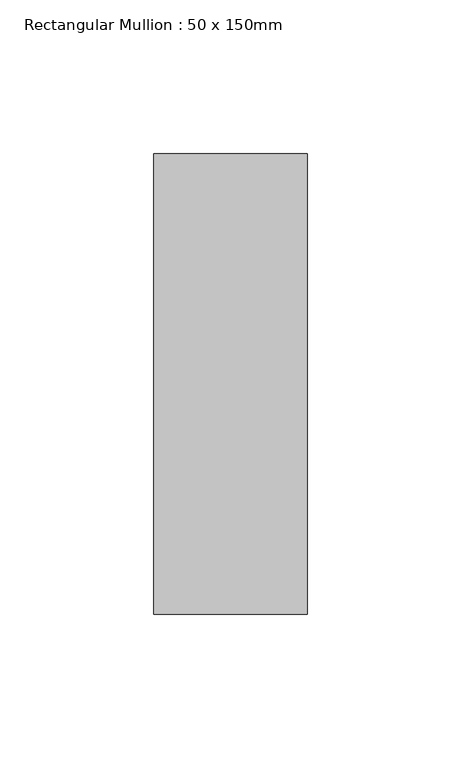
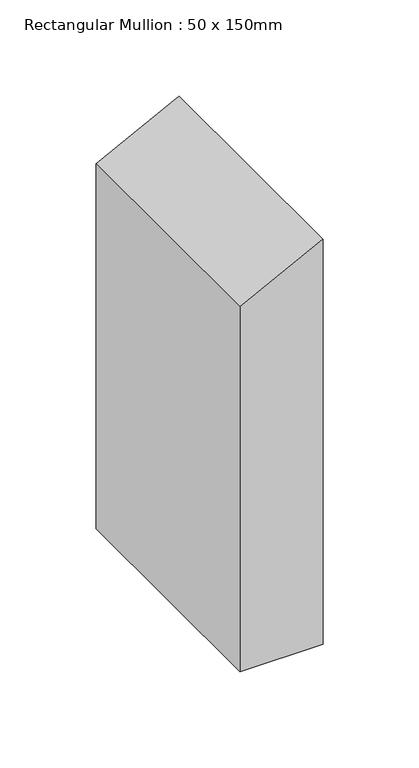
"""IFC4 building model written with IfcOpenShell, lengths in millimetres: member geometry, Rectangular Mullion : 50 x 150mm."""

from ifc_helpers import new_model, si_unit, frame, origin, place, context, project, spatial, polyline, outline, extrude, source, transform, mapped, element, save


def rectangular_mullion_50_x_150mm_f816ec39(model_context):
    return source(origin(), model_context, "Body", "SweptSolid", [
        extrude(outline(polyline([(0.0, 0.0), (-25.4762725, -50.0), (-257.6864381, -50.0), (-257.6864381, 0.0), (0.0, 0.0)])), frame((0.0, -75.0, 0.0), z_axis=(0.0, 1.0, 0.0), x_axis=(0.0, 0.0, 1.0)), (0.0, 0.0, 1.0), 150.0),
    ])


if __name__ == "__main__":
    model = new_model("IFC4")
    model_context = context("Model", 3, world=origin())
    ifc_project = project(units=[si_unit("LENGTHUNIT", "METRE", prefix="MILLI")], contexts=[model_context])
    site = spatial("IfcSite", under=ifc_project)
    building = spatial("IfcBuilding", under=site)
    placement = place(None, origin())
    rectangular_mullion_50_x_150mm_shape = rectangular_mullion_50_x_150mm_f816ec39(model_context)
    element("IfcMember", 1, ObjectType="Rectangular Mullion : 50 x 150mm", at=placement, inside=building, context=model_context, shape_type="MappedRepresentation", body=[
        mapped(rectangular_mullion_50_x_150mm_shape, transform((0.0, 0.0, 0.0), x_axis=(1.0, 0.0, 0.0), y_axis=(0.0, 1.0, 0.0), z_axis=(0.0, 0.0, 1.0))),
    ])
    save(model, "model.ifc")
